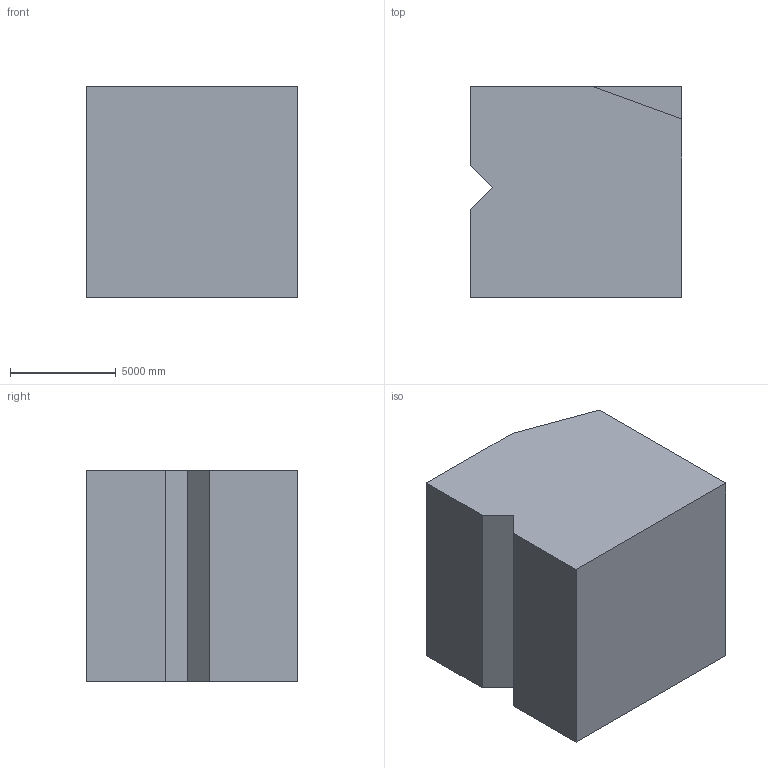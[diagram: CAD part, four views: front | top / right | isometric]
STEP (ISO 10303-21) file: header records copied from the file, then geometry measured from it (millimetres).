
FILE_DESCRIPTION (( 'STEP AP203' ), '1' );
FILE_NAME ('1175.STEP', '2022-08-18T13:03:19', ( 'user' ), ( '' ), 'SwSTEP 2.0', 'SolidWorks 2021', '' );
FILE_SCHEMA (( 'CONFIG_CONTROL_DESIGN' ));
Length unit declared in the file: centimetre
Products named in the file (1): 1175
Bounding box: 10000 x 10000 x 10000 mm (x, y, z)
Volume: 983971405200.8 mm3; surface area: 604478413.4 mm2
Topology: 1 solids, 1 shells, 11 faces, 27 edges, 18 vertices
Faces by surface type: plane 11
Entity records: 398 total; most frequent: CARTESIAN_POINT 57, ORIENTED_EDGE 54, DIRECTION 51, EDGE_CURVE 27, LINE 27, VECTOR 27, VERTEX_POINT 18, AXIS2_PLACEMENT_3D 12
